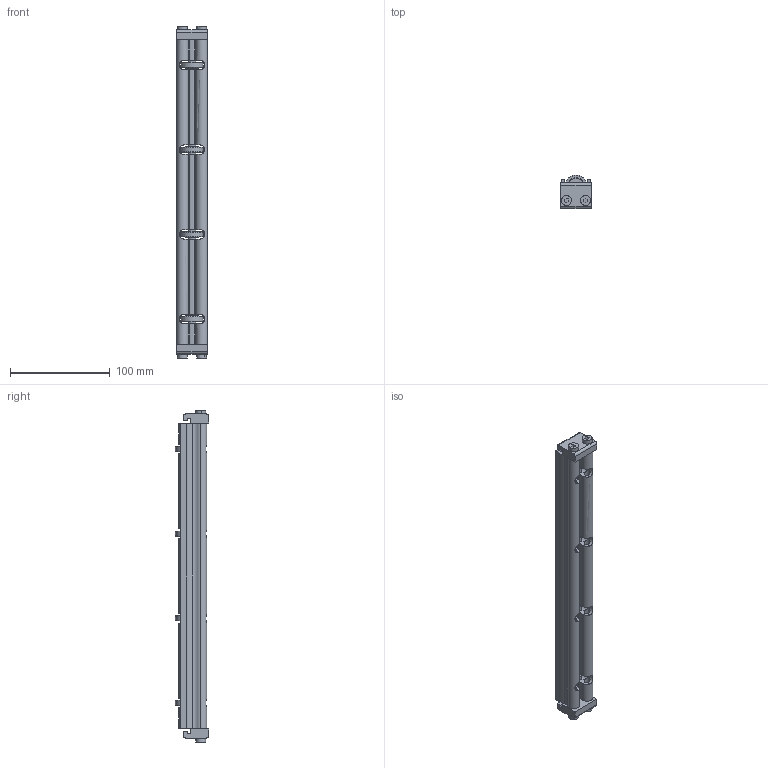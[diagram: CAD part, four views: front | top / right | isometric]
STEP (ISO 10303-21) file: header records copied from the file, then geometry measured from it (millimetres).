
FILE_DESCRIPTION((''),'2;1');
FILE_NAME('324912_ASM','2023-03-14T',('jenni.wallner'),(''),'PRO/ENGINEER BY PARAMETRIC TECHNOLOGY CORPORATION, 2012420','PRO/ENGINEER BY PARAMETRIC TECHNOLOGY CORPORATION, 2012420','');
FILE_SCHEMA(('CONFIG_CONTROL_DESIGN'));
Length unit declared in the file: inch
Products named in the file (7): X920693M; 240826; 240827_CAE; 2410WW_CAE_241012; 2436WW_243612; ASM0001_ASM; 324912_ASM
Assembly tree (13 placements, depth 3):
  324912_ASM
    ASM0001_ASM
      X920693M  x4
      240826  x4
      240827_CAE  x2
      2410WW_CAE_241012
      2436WW_243612
Bounding box: 30.88 x 33.34 x 332.21 mm (x, y, z)
Volume: 158325.7 mm3; surface area: 94930 mm2
Topology: 12 solids, 12 shells, 328 faces, 896 edges, 592 vertices
Faces by surface type: cylinder 146, plane 130, cone 36, torus 16
Entity records: 8005 total; most frequent: CARTESIAN_POINT 1895, DIRECTION 1304, ORIENTED_EDGE 1264, EDGE_CURVE 632, AXIS2_PLACEMENT_3D 500, VERTEX_POINT 420, VECTOR 304, LINE 304
